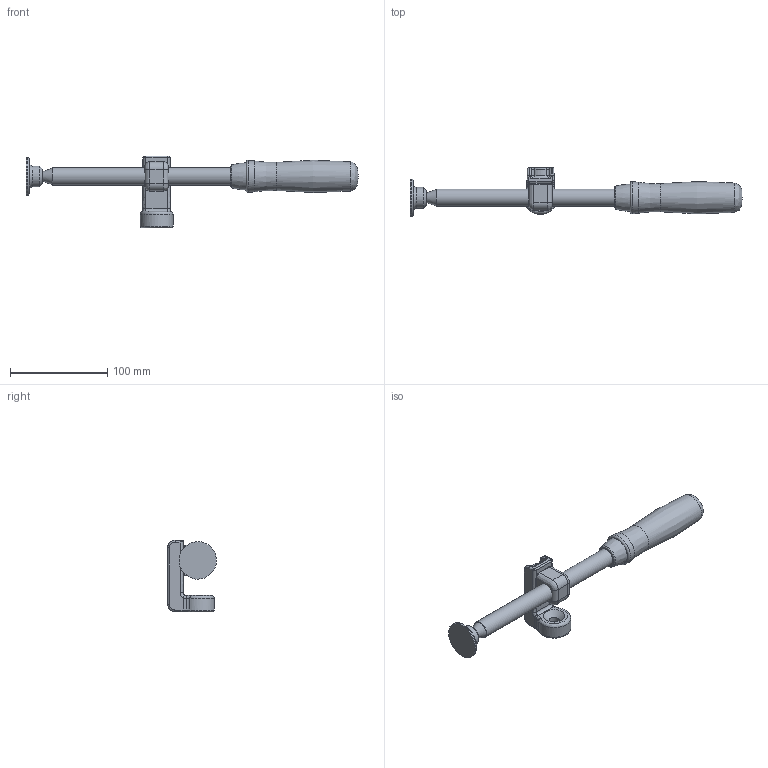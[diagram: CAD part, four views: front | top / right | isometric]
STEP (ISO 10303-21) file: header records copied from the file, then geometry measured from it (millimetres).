
FILE_DESCRIPTION( ('This file contains a STEP AP42 implementation' ,'as created by ZW3D STEP Interface translator.') ,'2;1' );
FILE_NAME( 'TW28AV.stp' ,'15 319.135038', (''), ('ZWCAD Software Co.'), 'Version 1.0', 'ZW3D to STEP translator', '' );
FILE_SCHEMA( ('CONFIG_CONTROL_DESIGN') );
Length unit declared in the file: millimetre
Products named in the file (5): 0; Zusbau; Aufsatz TW28AV; 3009025a_AufsatzTW28AV; Mutter und Spindel_TW28AV
Assembly tree (3 placements, depth 3):
  0
  Zusbau
    Aufsatz TW28AV
      3009025a_AufsatzTW28AV
    Mutter und Spindel_TW28AV
Bounding box: 341.33 x 50.21 x 73.97 mm (x, y, z)
Volume: 51664 mm3; surface area: 42950.2 mm2
Topology: 2 solids, 4 shells, 153 faces, 334 edges, 190 vertices
Faces by surface type: bspline 153
Entity records: 7342 total; most frequent: CARTESIAN_POINT 5214, ORIENTED_EDGE 660, EDGE_CURVE 331, VERTEX_POINT 190, EDGE_LOOP 163, B_SPLINE_CURVE_WITH_KNOTS 160, FACE_OUTER_BOUND 153, ADVANCED_FACE 153
